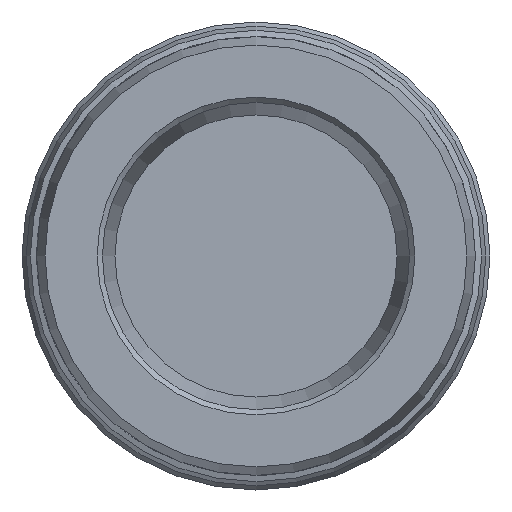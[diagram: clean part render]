
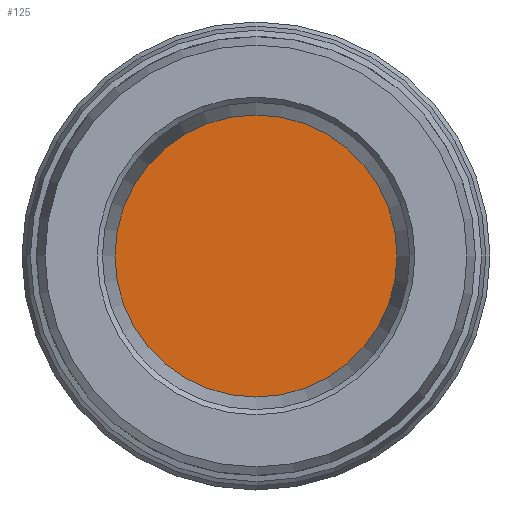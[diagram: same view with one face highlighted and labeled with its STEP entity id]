
A CAD part, left-side view. The second image highlights one B-rep face of the part: STEP entity #125.
In plain terms, the highlighted planar face has unit normal (-1, 0, 0).
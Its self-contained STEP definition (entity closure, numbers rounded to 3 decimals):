
#63=FACE_OUTER_BOUND('',#290,.T.);
#78=PLANE('',#597);
#125=ADVANCED_FACE('',(#63),#78,.F.);
#290=EDGE_LOOP('',(#388));
#388=ORIENTED_EDGE('',*,*,#460,.T.);
#414=VERTEX_POINT('',#783);
#460=EDGE_CURVE('',#414,#414,#509,.T.);
#509=CIRCLE('',#547,13.5);
#547=AXIS2_PLACEMENT_3D('',#782,#627,#628);
#597=AXIS2_PLACEMENT_3D('',#1032,#727,#728);
#627=DIRECTION('',(-1.,0.,0.));
#628=DIRECTION('',(0.,0.,-1.));
#727=DIRECTION('',(1.,0.,0.));
#728=DIRECTION('',(0.,0.,1.));
#782=CARTESIAN_POINT('',(-18.294,13.002,0.));
#783=CARTESIAN_POINT('',(-18.294,13.002,-13.5));
#1032=CARTESIAN_POINT('',(-18.294,13.002,0.));
